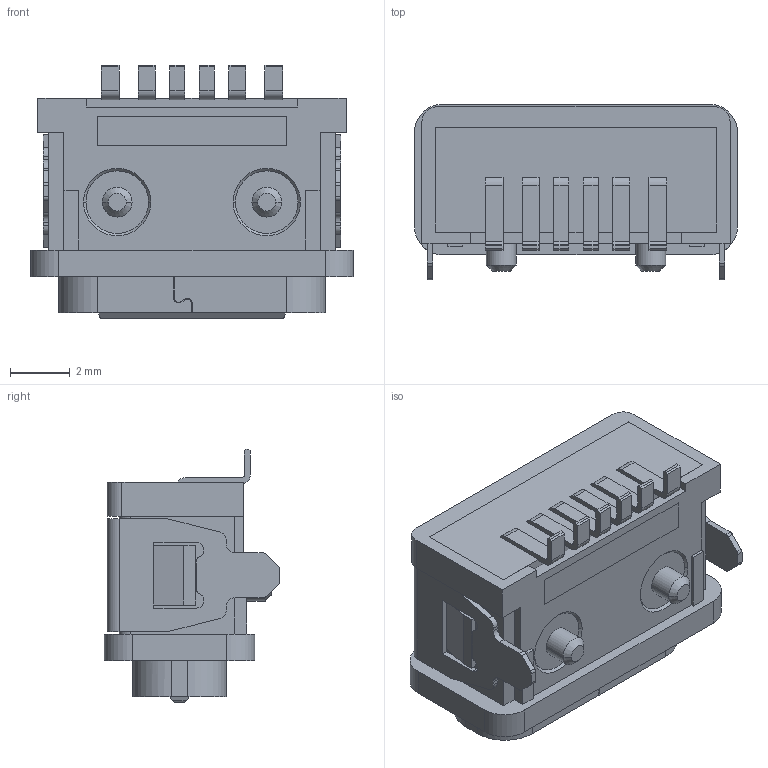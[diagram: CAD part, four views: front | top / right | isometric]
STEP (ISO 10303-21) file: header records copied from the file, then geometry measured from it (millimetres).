
FILE_DESCRIPTION((''),'2;1');
FILE_NAME('1020025','2023-02-24T16:38:18',('Administrator'),(''),'CREO PARAMETRIC BY PTC INC, 2019080','CREO PARAMETRIC BY PTC INC, 2019080','');
FILE_SCHEMA(('CONFIG_CONTROL_DESIGN'));
Length unit declared in the file: millimetre
Products named in the file (1): 1020025
Bounding box: 10.84 x 5.9 x 8.5 mm (x, y, z)
Volume: 176.2 mm3; surface area: 892.1 mm2
Topology: 1 solids, 2 shells, 814 faces, 2291 edges, 1511 vertices
Faces by surface type: plane 636, cylinder 154, cone 24
Entity records: 26113 total; most frequent: CARTESIAN_POINT 4672, ORIENTED_EDGE 4568, DIRECTION 4252, EDGE_CURVE 2291, VECTOR 1936, LINE 1936, VERTEX_POINT 1511, AXIS2_PLACEMENT_3D 1158
